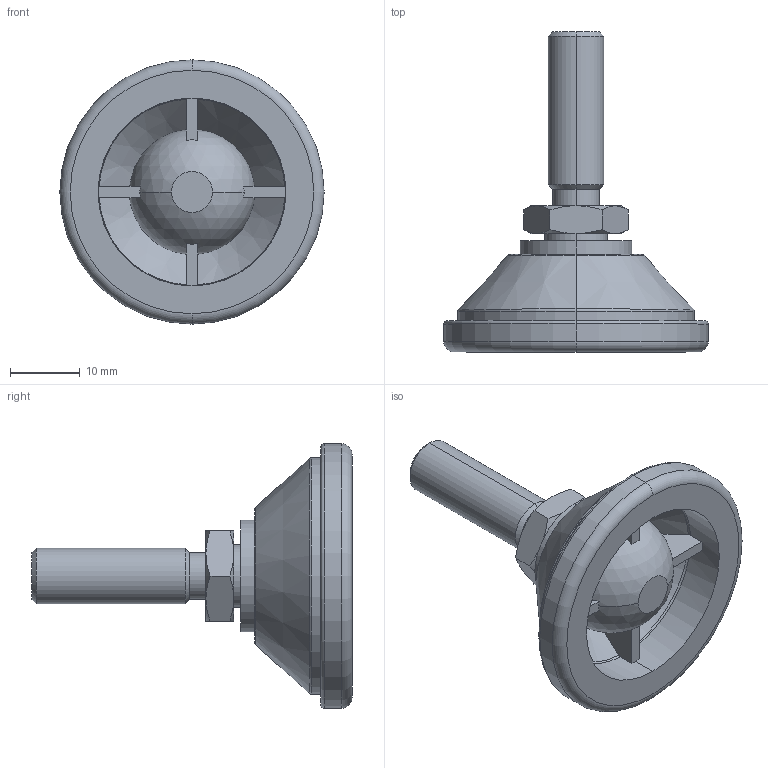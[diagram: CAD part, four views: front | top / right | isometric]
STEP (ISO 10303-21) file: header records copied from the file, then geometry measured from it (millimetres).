
FILE_DESCRIPTION (( 'STEP AP203' ), '1' );
FILE_NAME ('3472.W080.step', '2009-10-21T16:57:35', ( 'Wixroyd' ), ( 'Wixroyd' ), 'SwSTEP 2.0', 'SolidWorks 2009', '' );
FILE_SCHEMA (( 'CONFIG_CONTROL_DESIGN' ));
Length unit declared in the file: millimetre
Products named in the file (3): 3472.W080; Part1_3472W080; Part2_3472W080
Assembly tree (2 placements, depth 2):
  3472.W080
    Part1_3472W080
    Part2_3472W080
Bounding box: 38 x 46 x 38 mm (x, y, z)
Volume: 9930.3 mm3; surface area: 6546 mm2
Topology: 2 solids, 2 shells, 83 faces, 202 edges, 126 vertices
Faces by surface type: plane 27, cone 22, cylinder 16, torus 12, sphere 6
Entity records: 2817 total; most frequent: CARTESIAN_POINT 602, DIRECTION 438, ORIENTED_EDGE 386, AXIS2_PLACEMENT_3D 197, EDGE_CURVE 193, VERTEX_POINT 121, CIRCLE 109, EDGE_LOOP 90
